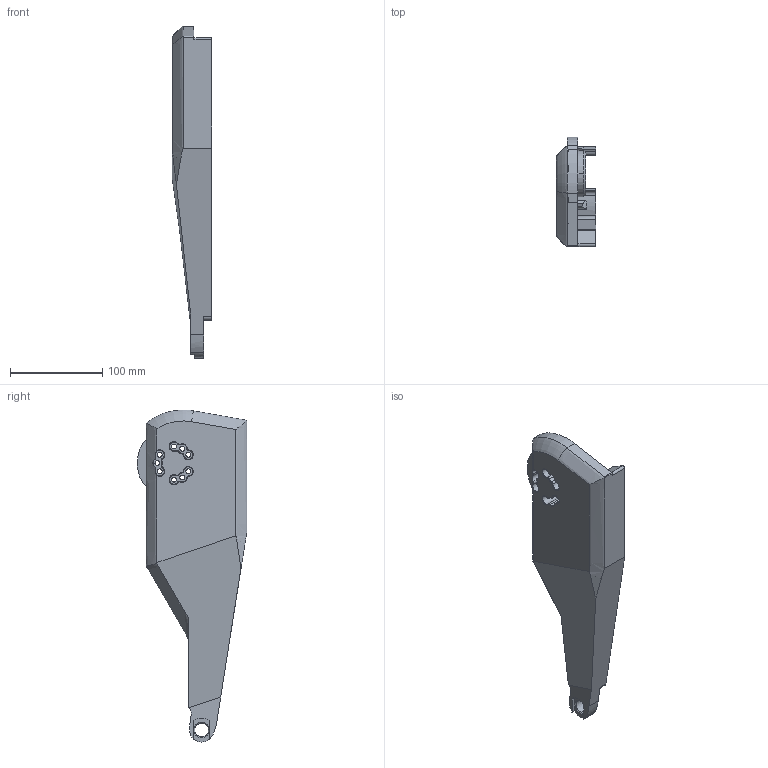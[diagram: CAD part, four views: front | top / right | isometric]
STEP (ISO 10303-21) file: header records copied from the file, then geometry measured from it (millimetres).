
FILE_DESCRIPTION((''),'2;1');
FILE_NAME('KD-D-401L_L_SHIN_DRIVE_1','2025-07-12T16:30:59',('Administrator'),(''),'CREO PARAMETRIC BY PTC INC, 2022073','CREO PARAMETRIC BY PTC INC, 2022073','');
FILE_SCHEMA(('CONFIG_CONTROL_DESIGN'));
Length unit declared in the file: millimetre
Products named in the file (1): KD-D-401L_L_SHIN_DRIVE_1
Bounding box: 42.75 x 118.88 x 360.74 mm (x, y, z)
Volume: 200945.6 mm3; surface area: 126066.8 mm2
Topology: 1 solids, 1 shells, 351 faces, 1087 edges, 739 vertices
Faces by surface type: cylinder 173, plane 91, cone 61, extrusion 16, bspline 4, torus 4, revolution 2
Entity records: 13825 total; most frequent: CARTESIAN_POINT 4022, ORIENTED_EDGE 2138, DIRECTION 2008, EDGE_CURVE 1069, AXIS2_PLACEMENT_3D 770, VERTEX_POINT 739, VECTOR 466, LINE 450
